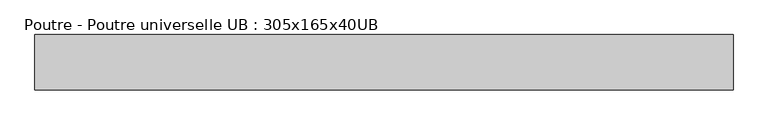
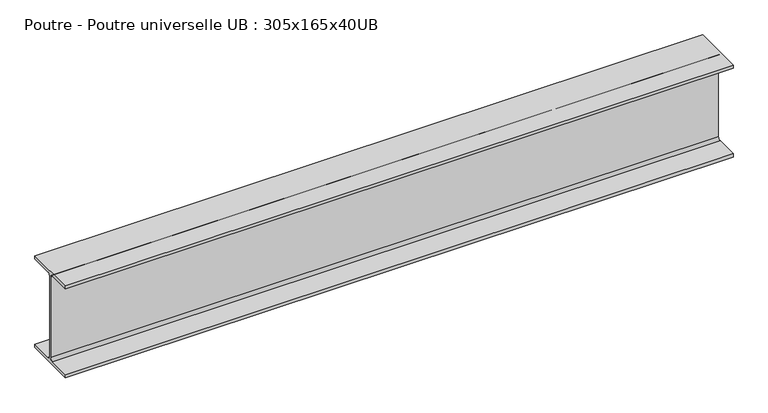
"""IFC4 building model written with IfcOpenShell, lengths in millimetres: beam geometry, Poutre - Poutre universelle UB : 305x165x40UB."""

from ifc_helpers import new_model, si_unit, point, frame, frame_2d, origin, place, context, project, spatial, polyline, circle_curve, trimmed, segment, composite_curve, outline, extrude, source, transform, mapped, element, save


def poutre_poutre_universelle_ub_305x165x40ub_2871cc38(model_context):
    return source(origin(), model_context, "Body", "SweptSolid", [
        extrude(outline(composite_curve([segment(polyline([(82.5, -141.5), (82.5, -151.7), (-82.5, -151.7), (-82.5, -141.5), (-11.9, -141.5)]), True, "CONTINUOUS"), segment(trimmed(circle_curve(frame_2d((-11.9, -132.6)), 8.9), [point((-11.9, -141.5))], [point((-3.0, -132.6))], True, "CARTESIAN"), True, "CONTINUOUS"), segment(polyline([(-3.0, -132.6), (-3.0, 132.6)]), True, "CONTINUOUS"), segment(trimmed(circle_curve(frame_2d((-11.9, 132.6)), 8.9), [point((-3.0, 132.6))], [point((-11.9, 141.5))], True, "CARTESIAN"), True, "CONTINUOUS"), segment(polyline([(-11.9, 141.5), (-82.5, 141.5), (-82.5, 151.7), (82.5, 151.7), (82.5, 141.5), (11.9, 141.5)]), True, "CONTINUOUS"), segment(trimmed(circle_curve(frame_2d((11.9, 132.6)), 8.9), [point((11.9, 141.5))], [point((3.0, 132.6))], True, "CARTESIAN"), True, "CONTINUOUS"), segment(polyline([(3.0, 132.6), (3.0, -132.6)]), True, "CONTINUOUS"), segment(trimmed(circle_curve(frame_2d((11.9, -132.6)), 8.9), [point((3.0, -132.6))], [point((11.9, -141.5))], True, "CARTESIAN"), True, "CONTINUOUS"), segment(polyline([(11.9, -141.5), (82.5, -141.5)]), True, "CONTINUOUS")], self_intersect=False)), frame((-1091.0, 0.0, 0.0), z_axis=(1.0, 0.0, 0.0), x_axis=(0.0, 1.0, 0.0)), (0.0, 0.0, 1.0), 2087.0),
    ])


if __name__ == "__main__":
    model = new_model("IFC4")
    model_context = context("Model", 3, world=origin())
    ifc_project = project(units=[si_unit("LENGTHUNIT", "METRE", prefix="MILLI")], contexts=[model_context])
    site = spatial("IfcSite", under=ifc_project)
    building = spatial("IfcBuilding", under=site)
    placement = place(None, origin())
    poutre_poutre_universelle_ub_305x165x40ub_shape = poutre_poutre_universelle_ub_305x165x40ub_2871cc38(model_context)
    element("IfcBeam", 1, ObjectType="Poutre - Poutre universelle UB : 305x165x40UB", at=placement, inside=building, context=model_context, shape_type="MappedRepresentation", body=[
        mapped(poutre_poutre_universelle_ub_305x165x40ub_shape, transform((0.0, 0.0, 0.0), x_axis=(1.0, 0.0, 0.0), y_axis=(0.0, 1.0, 0.0), z_axis=(0.0, 0.0, 1.0))),
    ])
    save(model, "model.ifc")
